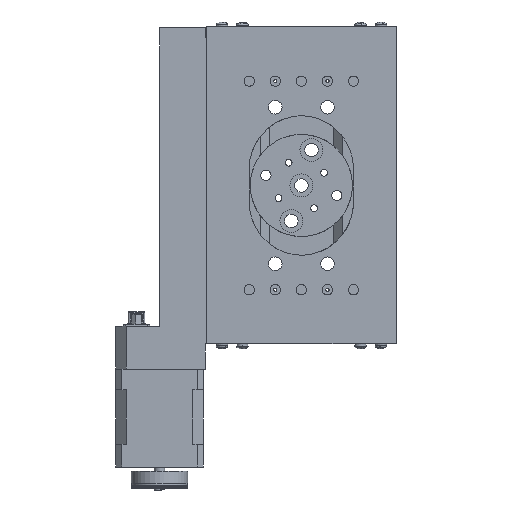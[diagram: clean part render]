
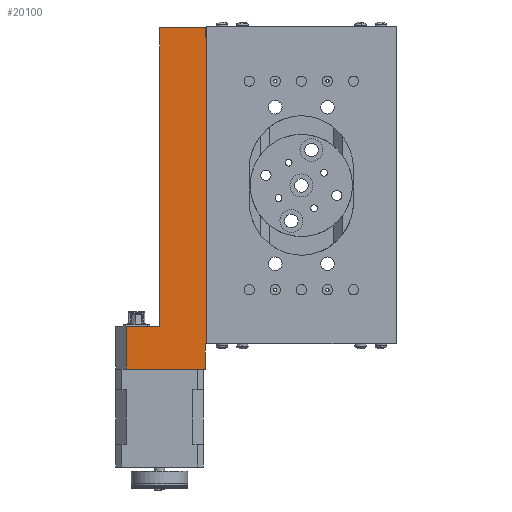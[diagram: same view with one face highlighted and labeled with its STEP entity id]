
A CAD part, front view. The second image highlights one B-rep face of the part: STEP entity #20100.
In plain terms, the highlighted planar face has unit normal (0, -1, 0).
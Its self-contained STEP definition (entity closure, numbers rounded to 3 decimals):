
#19560 = VERTEX_POINT ( 'NONE', #72590 ) ;
#19562 = EDGE_CURVE ( 'NONE', #19563, #19560, #72586, .T. ) ;
#19563 = VERTEX_POINT ( 'NONE', #72578 ) ;
#19649 = EDGE_CURVE ( 'NONE', #19650, #19672, #72825, .T. ) ;
#19650 = VERTEX_POINT ( 'NONE', #72814 ) ;
#19672 = VERTEX_POINT ( 'NONE', #72866 ) ;
#19754 = VERTEX_POINT ( 'NONE', #73151 ) ;
#19757 = EDGE_CURVE ( 'NONE', #19758, #19754, #73149, .T. ) ;
#19758 = VERTEX_POINT ( 'NONE', #73145 ) ;
#19813 = VERTEX_POINT ( 'NONE', #73316 ) ;
#19818 = EDGE_CURVE ( 'NONE', #19813, #19758, #73300, .T. ) ;
#19867 = EDGE_CURVE ( 'NONE', #19560, #19868, #73584, .T. ) ;
#19868 = VERTEX_POINT ( 'NONE', #73578 ) ;
#19922 = EDGE_CURVE ( 'NONE', #19923, #19563, #73546, .T. ) ;
#19923 = VERTEX_POINT ( 'NONE', #73665 ) ;
#20088 = ORIENTED_EDGE ( 'NONE', *, *, #20089, .F. ) ;
#20089 = EDGE_CURVE ( 'NONE', #19923, #20111, #73620, .T. ) ;
#20090 = ORIENTED_EDGE ( 'NONE', *, *, #19922, .T. ) ;
#20091 = ORIENTED_EDGE ( 'NONE', *, *, #19562, .T. ) ;
#20100 = ADVANCED_FACE ( 'NONE', ( #73725 ), #73719, .T. ) ;
#20101 = ORIENTED_EDGE ( 'NONE', *, *, #19867, .T. ) ;
#20102 = ORIENTED_EDGE ( 'NONE', *, *, #20103, .F. ) ;
#20103 = EDGE_CURVE ( 'NONE', #19813, #19868, #73710, .T. ) ;
#20104 = ORIENTED_EDGE ( 'NONE', *, *, #19818, .T. ) ;
#20105 = ORIENTED_EDGE ( 'NONE', *, *, #19757, .T. ) ;
#20106 = ORIENTED_EDGE ( 'NONE', *, *, #20107, .F. ) ;
#20107 = EDGE_CURVE ( 'NONE', #19650, #19754, #73702, .T. ) ;
#20108 = ORIENTED_EDGE ( 'NONE', *, *, #19649, .T. ) ;
#20109 = ORIENTED_EDGE ( 'NONE', *, *, #20110, .T. ) ;
#20110 = EDGE_CURVE ( 'NONE', #19672, #20111, #73696, .T. ) ;
#20111 = VERTEX_POINT ( 'NONE', #73687 ) ;
#20121 = EDGE_LOOP ( 'NONE', ( #20101, #20102, #20104, #20105, #20106, #20108, #20109, #20088, #20090, #20091 ) ) ;
#72578 = CARTESIAN_POINT ( 'NONE',  ( -41.824, -4.272, 0. ) ) ;
#72581 = DIRECTION ( 'NONE',  ( 0., 0., 1. ) ) ;
#72582 = VECTOR ( 'NONE', #72581, 39.37 ) ;
#72584 = CARTESIAN_POINT ( 'NONE',  ( -41.824, -4.272, 147. ) ) ;
#72586 = LINE ( 'NONE', #72584, #72582 ) ;
#72590 = CARTESIAN_POINT ( 'NONE',  ( -41.824, -4.272, 147. ) ) ;
#72814 = CARTESIAN_POINT ( 'NONE',  ( -80.324, -4.272, 8.5 ) ) ;
#72815 = DIRECTION ( 'NONE',  ( 0., 0., -1. ) ) ;
#72816 = VECTOR ( 'NONE', #72815, 39.37 ) ;
#72817 = CARTESIAN_POINT ( 'NONE',  ( -80.324, -4.272, 147. ) ) ;
#72825 = LINE ( 'NONE', #72817, #72816 ) ;
#72866 = CARTESIAN_POINT ( 'NONE',  ( -80.324, -4.272, -12. ) ) ;
#73145 = CARTESIAN_POINT ( 'NONE',  ( -64.324, -4.272, 151.5 ) ) ;
#73146 = DIRECTION ( 'NONE',  ( 0., 0., -1. ) ) ;
#73147 = VECTOR ( 'NONE', #73146, 39.37 ) ;
#73148 = CARTESIAN_POINT ( 'NONE',  ( -64.324, -4.272, 147. ) ) ;
#73149 = LINE ( 'NONE', #73148, #73147 ) ;
#73151 = CARTESIAN_POINT ( 'NONE',  ( -64.324, -4.272, 8.5 ) ) ;
#73297 = DIRECTION ( 'NONE',  ( -1., 0., 0. ) ) ;
#73298 = VECTOR ( 'NONE', #73297, 39.37 ) ;
#73299 = CARTESIAN_POINT ( 'NONE',  ( -42.324, -4.272, 151.5 ) ) ;
#73300 = LINE ( 'NONE', #73299, #73298 ) ;
#73316 = CARTESIAN_POINT ( 'NONE',  ( -42.324, -4.272, 151.5 ) ) ;
#73546 = LINE ( 'NONE', #73671, #73668 ) ;
#73578 = CARTESIAN_POINT ( 'NONE',  ( -42.324, -4.272, 147. ) ) ;
#73579 = DIRECTION ( 'NONE',  ( -1., 0., 0. ) ) ;
#73581 = VECTOR ( 'NONE', #73579, 39.37 ) ;
#73582 = CARTESIAN_POINT ( 'NONE',  ( -42.324, -4.272, 147. ) ) ;
#73584 = LINE ( 'NONE', #73582, #73581 ) ;
#73616 = DIRECTION ( 'NONE',  ( 0., 0., -1. ) ) ;
#73617 = VECTOR ( 'NONE', #73616, 39.37 ) ;
#73619 = CARTESIAN_POINT ( 'NONE',  ( -42.324, -4.272, 147. ) ) ;
#73620 = LINE ( 'NONE', #73619, #73617 ) ;
#73665 = CARTESIAN_POINT ( 'NONE',  ( -42.324, -4.272, 0. ) ) ;
#73667 = DIRECTION ( 'NONE',  ( 1., 0., 0. ) ) ;
#73668 = VECTOR ( 'NONE', #73667, 39.37 ) ;
#73671 = CARTESIAN_POINT ( 'NONE',  ( -42.324, -4.272, 0. ) ) ;
#73687 = CARTESIAN_POINT ( 'NONE',  ( -42.324, -4.272, -12. ) ) ;
#73689 = DIRECTION ( 'NONE',  ( 1., 0., 0. ) ) ;
#73691 = VECTOR ( 'NONE', #73689, 39.37 ) ;
#73694 = CARTESIAN_POINT ( 'NONE',  ( -63.824, -4.272, -12. ) ) ;
#73696 = LINE ( 'NONE', #73694, #73691 ) ;
#73697 = DIRECTION ( 'NONE',  ( 1., 0., 0. ) ) ;
#73698 = VECTOR ( 'NONE', #73697, 39.37 ) ;
#73700 = CARTESIAN_POINT ( 'NONE',  ( -74.824, -4.272, 8.5 ) ) ;
#73702 = LINE ( 'NONE', #73700, #73698 ) ;
#73706 = DIRECTION ( 'NONE',  ( 0., 0., -1. ) ) ;
#73707 = VECTOR ( 'NONE', #73706, 39.37 ) ;
#73708 = CARTESIAN_POINT ( 'NONE',  ( -42.324, -4.272, 147. ) ) ;
#73710 = LINE ( 'NONE', #73708, #73707 ) ;
#73715 = DIRECTION ( 'NONE',  ( 0., 0., -1. ) ) ;
#73716 = DIRECTION ( 'NONE',  ( 0., -1., 0. ) ) ;
#73717 = CARTESIAN_POINT ( 'NONE',  ( -42.324, -4.272, 147. ) ) ;
#73718 = AXIS2_PLACEMENT_3D ( 'NONE', #73717, #73716, #73715 ) ;
#73719 = PLANE ( 'NONE',  #73718 ) ;
#73725 = FACE_OUTER_BOUND ( 'NONE', #20121, .T. ) ;
